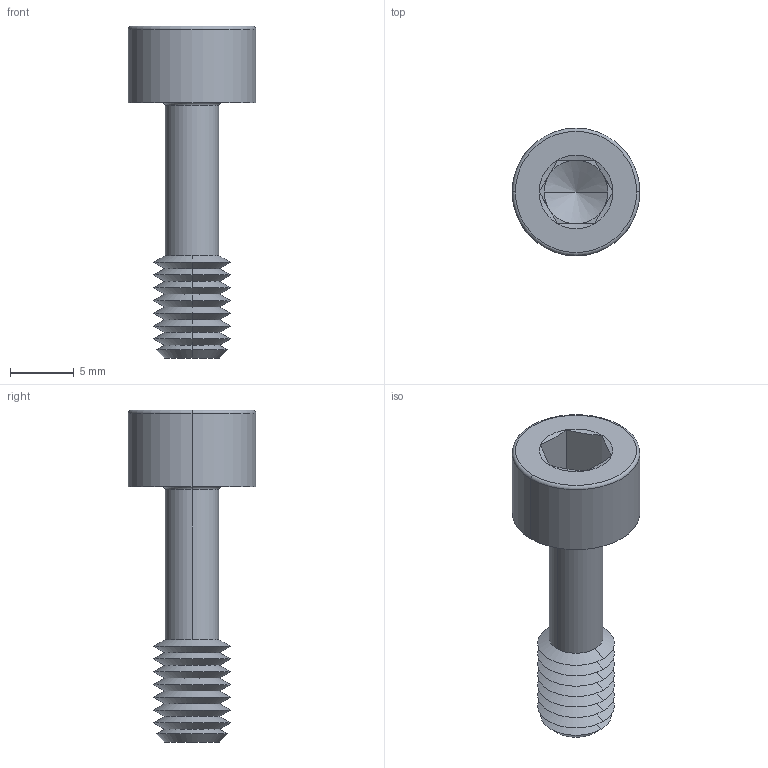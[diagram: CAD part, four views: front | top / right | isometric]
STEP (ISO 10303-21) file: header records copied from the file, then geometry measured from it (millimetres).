
FILE_DESCRIPTION (( 'STEP AP203' ), '1' );
FILE_NAME ('Default.step', '2024-06-17T11:20:46', ( '' ), ( '' ), 'SwSTEP 2.0', 'SolidWorks 2019', '' );
FILE_SCHEMA (( 'CONFIG_CONTROL_DESIGN' ));
Length unit declared in the file: millimetre
Products named in the file (1): Default
Bounding box: 10 x 10 x 26 mm (x, y, z)
Volume: 684.7 mm3; surface area: 839.5 mm2
Topology: 1 solids, 1 shells, 63 faces, 128 edges, 67 vertices
Faces by surface type: cone 40, plane 15, torus 4, cylinder 4
Entity records: 1687 total; most frequent: DIRECTION 312, CARTESIAN_POINT 283, ORIENTED_EDGE 252, AXIS2_PLACEMENT_3D 128, EDGE_CURVE 126, VERTEX_POINT 67, EDGE_LOOP 65, CIRCLE 64
